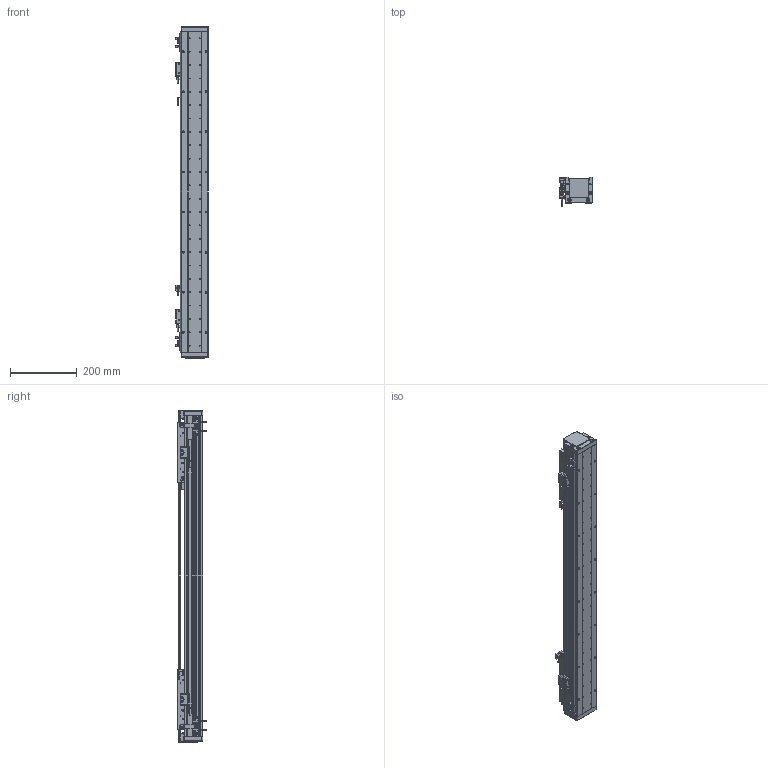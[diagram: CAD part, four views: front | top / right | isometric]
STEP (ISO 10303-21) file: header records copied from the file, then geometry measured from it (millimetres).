
FILE_DESCRIPTION (( 'STEP AP203' ), '1' );
FILE_NAME ('DA-A82-2-B2-T540-C010-0.2 眻盄萇儂.STEP', '2025-08-13T02:29:20', ( '' ), ( '' ), 'SwSTEP 2.0', 'SolidWorks 2019', '' );
FILE_SCHEMA (( 'CONFIG_CONTROL_DESIGN' ));
Length unit declared in the file: millimetre
Products named in the file (27): AU82-M-00 珨极趙賑雄怢啣-1; 复件 DA82-GYP-ZJ-00 中间光电感应片^DA-A82-B2-T-C010-0.2-N 直线电机; 复件 DA95-GT-T-00 底座钢轨^IU-AU82-L 底座导轨; IU-AU82-L 菁釱絳寢; AU82-M-00 珨极趙賑雄怢啣; 复件 DA82-T-002-00 盖板^DA-A82-B2-T-C010-0.2-N 直线电机; IU-AU82-L-00 菁釱(L960); DA-A82-2-B2-T540-C010-0.2 眻盄萇儂; 复件 复件 DA82-XJ-00 缓冲橡胶^DA-A82-B2-T-C010-0.2-N 直线电机; AU82-M 幗紩賑怢-1; 复件 XD-U-02  磁栅尺^DA-A82-B2-T-C010-0.2-N 直线电机; AU82-HT-M-00 賑雄怢啣; 复件 六角薄螺母 M3^DA-A82-B2-T-C010-0.2-N 直线电机; 复件 DKW-GJ-XJ-00 防撞橡胶^DA-A82-B2-T-C010-0.2-N 直线电机; 葩璃 DMT-010 1米m 0.2M^DA-A82-B2-T-C010-0.2-N 眻盄萇儂; 复件 DA95-B2-GT-00 滑块钢轨^AU82-M-00 一体化滑动台板; 复件 DA60-DMT-DTJ-00 读数头支架^DA-A82-B2-T-C010-0.2-N 直线电机; DA-A60-GYP-DMT-00 光电感应片^DA-A82-B2-T-C010-0.2-N 直线电机(默认); 葩璃 DA82-B2-DP-00 結え^AU82-M 幗紩賑怢; 复件 DA82-DG-H-N-00 端盖^DA-A82-B2-T-C010-0.2-N 直线电机(默认_按加工_); 复件 DA82-GDZ-ZJ-00 中间光电固定座^DA-A82-B2-T-C010-0.2-N 直线电机; 葩璃 PM-T45^DA-A82-B2-T-C010-0.2-N 眻盄萇儂; 复件 BKM02-W040-C1-TP-DA-3.0 直线电机动子^DA-A82-B2-T-C010-0.2-N 直线电机; 葩璃 PM-L25^DA-A82-B2-T-C010-0.2-N 眻盄萇儂; 复件 纯铜油杯 6x6mm^AU82-M 滚珠滑台; 葩璃 BKM01-W040-TRL^DA-A82-B2-T-C010-0.2-N 眻盄萇儂; AU82-M 幗紩賑怢
Assembly tree (57 placements, depth 4):
  DA-A82-2-B2-T540-C010-0.2 眻盄萇儂
    IU-AU82-L 菁釱絳寢
      IU-AU82-L-00 菁釱(L960)
      复件 DA95-GT-T-00 底座钢轨^IU-AU82-L 底座导轨  x2
    AU82-M 幗紩賑怢
      AU82-M-00 珨极趙賑雄怢啣
        AU82-HT-M-00 賑雄怢啣
        复件 DA95-B2-GT-00 滑块钢轨^AU82-M-00 一体化滑动台板  x4
      葩璃 DA82-B2-DP-00 結え^AU82-M 幗紩賑怢  x2
      复件 纯铜油杯 6x6mm^AU82-M 滚珠滑台  x2
    AU82-M 幗紩賑怢-1
      AU82-M-00 珨极趙賑雄怢啣-1
        AU82-HT-M-00 賑雄怢啣
        复件 DA95-B2-GT-00 滑块钢轨^AU82-M-00 一体化滑动台板  x4
      葩璃 DA82-B2-DP-00 結え^AU82-M 幗紩賑怢  x2
      复件 纯铜油杯 6x6mm^AU82-M 滚珠滑台  x2
    复件 BKM02-W040-C1-TP-DA-3.0 直线电机动子^DA-A82-B2-T-C010-0.2-N 直线电机  x2
    复件 DA60-DMT-DTJ-00 读数头支架^DA-A82-B2-T-C010-0.2-N 直线电机  x2
    葩璃 DMT-010 1米m 0.2M^DA-A82-B2-T-C010-0.2-N 眻盄萇儂  x2
    DA-A60-GYP-DMT-00 光电感应片^DA-A82-B2-T-C010-0.2-N 直线电机(默认)  x2
    复件 DA82-GDZ-ZJ-00 中间光电固定座^DA-A82-B2-T-C010-0.2-N 直线电机
    葩璃 PM-L25^DA-A82-B2-T-C010-0.2-N 眻盄萇儂
    复件 DA82-GYP-ZJ-00 中间光电感应片^DA-A82-B2-T-C010-0.2-N 直线电机
    复件 DKW-GJ-XJ-00 防撞橡胶^DA-A82-B2-T-C010-0.2-N 直线电机
    复件 复件 DA82-XJ-00 缓冲橡胶^DA-A82-B2-T-C010-0.2-N 直线电机  x2
    复件 DA82-DG-H-N-00 端盖^DA-A82-B2-T-C010-0.2-N 直线电机(默认_按加工_)  x2
    复件 DA82-T-002-00 盖板^DA-A82-B2-T-C010-0.2-N 直线电机
    葩璃 BKM01-W040-TRL^DA-A82-B2-T-C010-0.2-N 眻盄萇儂
    葩璃 PM-T45^DA-A82-B2-T-C010-0.2-N 眻盄萇儂  x4
    复件 XD-U-02  磁栅尺^DA-A82-B2-T-C010-0.2-N 直线电机
    复件 六角薄螺母 M3^DA-A82-B2-T-C010-0.2-N 直线电机  x8
Bounding box: 98.95 x 87.2 x 994 mm (x, y, z)
Volume: 3675196.4 mm3; surface area: 1034929.5 mm2
Topology: 66 solids, 114 shells, 3089 faces, 7891 edges, 4856 vertices
Faces by surface type: cylinder 1341, plane 1238, cone 436, torus 46, bspline 20, sphere 8
Entity records: 59847 total; most frequent: CARTESIAN_POINT 12812, DIRECTION 9332, ORIENTED_EDGE 8734, EDGE_CURVE 4367, AXIS2_PLACEMENT_3D 3503, VERTEX_POINT 2827, VECTOR 2326, LINE 2326
